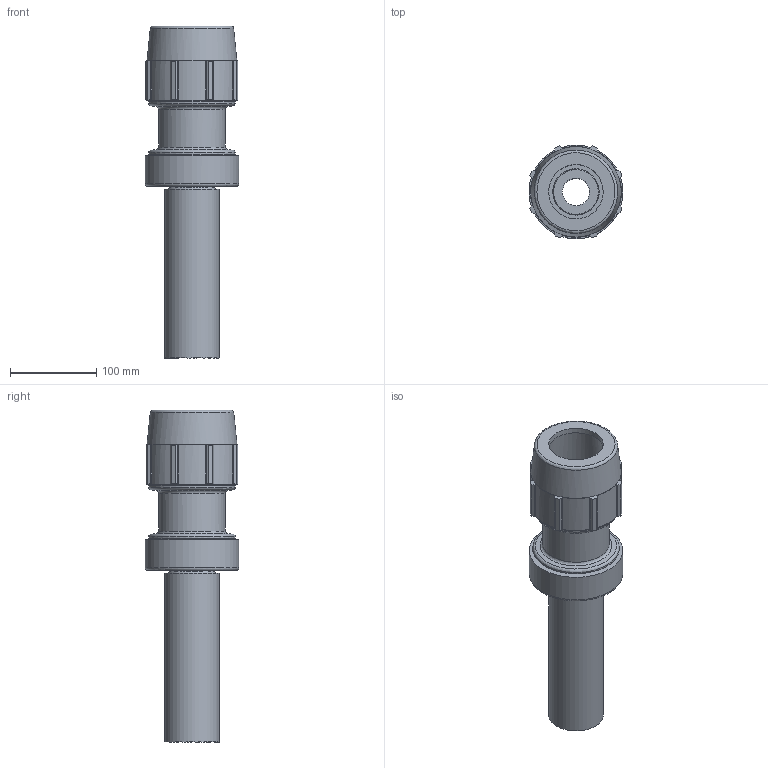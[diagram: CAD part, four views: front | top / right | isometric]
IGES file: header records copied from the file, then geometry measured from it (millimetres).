
Global section: file name: 074706063; native system: Autodesk Inventor 2019; preprocessor: unknown; author: comp2; date: 20230323.113529; units: millimetre
Bounding box: 108.36 x 108.47 x 384 mm (x, y, z)
Volume: 1209501.6 mm3; surface area: 251938.3 mm2
Topology: 4 solids, 4 shells, 97 faces, 285 edges, 204 vertices
Faces by surface type: bspline 97
